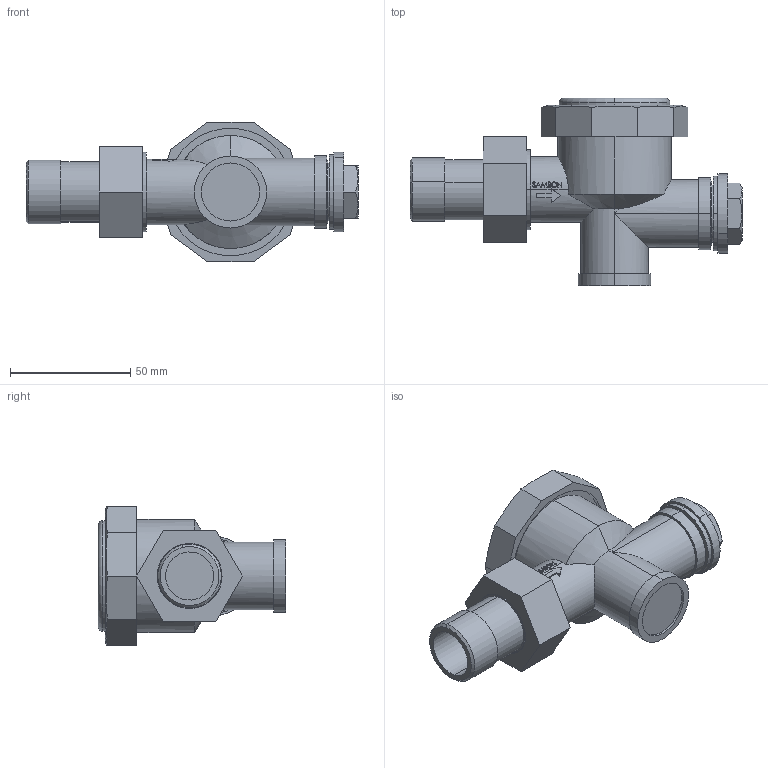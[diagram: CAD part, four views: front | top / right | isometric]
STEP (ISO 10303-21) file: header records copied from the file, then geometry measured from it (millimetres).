
FILE_DESCRIPTION (( 'STEP AP203' ), '1' );
FILE_NAME ('Typ13E_2013_AV_DIN_G3-4_#_#_#_std.STEP', '2010-06-21T12:40:26', ( '' ), ( '' ), 'SwSTEP 2.0', 'SolidWorks 2006303', '' );
FILE_SCHEMA (( 'CONFIG_CONTROL_DESIGN' ));
Length unit declared in the file: millimetre
Products named in the file (1): Typ13E_2013_AV_DIN_G3-4_#_#_#_std
Bounding box: 138 x 78 x 58 mm (x, y, z)
Volume: 164773.8 mm3; surface area: 53124.6 mm2
Topology: 8 solids, 8 shells, 315 faces, 775 edges, 509 vertices
Faces by surface type: plane 155, bspline 76, cylinder 62, cone 16, torus 6
Entity records: 13176 total; most frequent: CARTESIAN_POINT 6159, ORIENTED_EDGE 1550, DIRECTION 1193, EDGE_CURVE 775, VERTEX_POINT 509, VECTOR 415, LINE 415, AXIS2_PLACEMENT_3D 389
